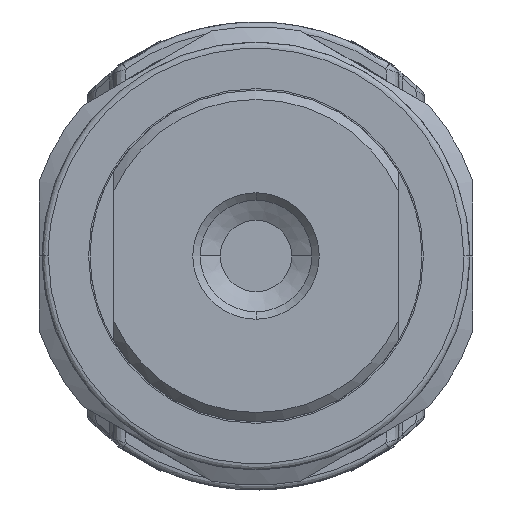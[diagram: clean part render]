
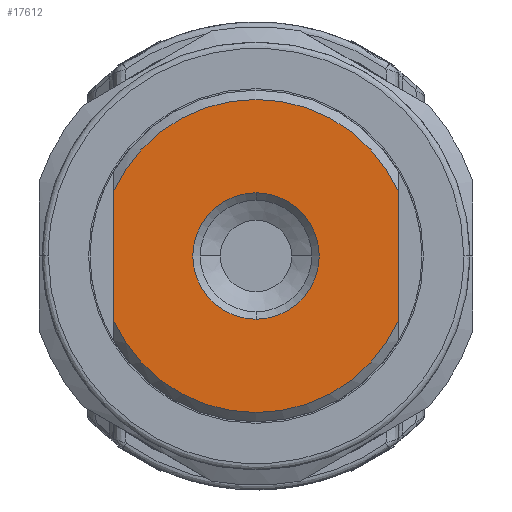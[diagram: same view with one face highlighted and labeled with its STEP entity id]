
A CAD part, front view. The second image highlights one B-rep face of the part: STEP entity #17612.
In plain terms, the highlighted planar face has unit normal (0, -1, 0).
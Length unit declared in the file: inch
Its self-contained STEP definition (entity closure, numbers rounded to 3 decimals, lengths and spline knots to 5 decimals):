
#470 = AXIS2_PLACEMENT_3D ( 'NONE', #39182, #9781, #43005 ) ;
#1462 = DIRECTION ( 'NONE',  ( 0., 1., 0. ) ) ;
#1888 = EDGE_CURVE ( 'NONE', #30042, #32122, #39884, .T. ) ;
#5652 = EDGE_LOOP ( 'NONE', ( #34901, #41704 ) ) ;
#5710 = CARTESIAN_POINT ( 'NONE',  ( 0., -2.41732, -0.40157 ) ) ;
#5877 = CARTESIAN_POINT ( 'NONE',  ( -0.90551, -2.41732, -0.41021 ) ) ;
#6251 = EDGE_LOOP ( 'NONE', ( #34708, #40214, #39175, #31432 ) ) ;
#7426 = FACE_OUTER_BOUND ( 'NONE', #6251, .T. ) ;
#7544 = CARTESIAN_POINT ( 'NONE',  ( -0.90551, -2.41732, 0.41021 ) ) ;
#8238 = FACE_BOUND ( 'NONE', #5652, .T. ) ;
#9524 = DIRECTION ( 'NONE',  ( -1., 0., 0. ) ) ;
#9781 = DIRECTION ( 'NONE',  ( 0., 1., 0. ) ) ;
#9969 = CARTESIAN_POINT ( 'NONE',  ( 0., -2.41732, 0. ) ) ;
#11052 = VECTOR ( 'NONE', #36806, 39.37008 ) ;
#11786 = DIRECTION ( 'NONE',  ( 0., -1., 0. ) ) ;
#13076 = EDGE_CURVE ( 'NONE', #19959, #32122, #41646, .T. ) ;
#14261 = CARTESIAN_POINT ( 'NONE',  ( 0.90551, -2.41732, 0.41021 ) ) ;
#14610 = AXIS2_PLACEMENT_3D ( 'NONE', #9969, #35286, #43187 ) ;
#15089 = CARTESIAN_POINT ( 'NONE',  ( 0.90551, -2.41732, 0.98425 ) ) ;
#15505 = AXIS2_PLACEMENT_3D ( 'NONE', #30075, #1462, #43157 ) ;
#16375 = CARTESIAN_POINT ( 'NONE',  ( -0.90551, -2.41732, 0.98425 ) ) ;
#17020 = CIRCLE ( 'NONE', #470, 0.40157 ) ;
#17612 = ADVANCED_FACE ( 'NONE', ( #8238, #7426 ), #28371, .T. ) ;
#18973 = CIRCLE ( 'NONE', #14610, 0.99409 ) ;
#19024 = EDGE_CURVE ( 'NONE', #41378, #39158, #49466, .T. ) ;
#19959 = VERTEX_POINT ( 'NONE', #7544 ) ;
#20282 = CARTESIAN_POINT ( 'NONE',  ( 0.90551, -2.41732, -0.41021 ) ) ;
#21667 = AXIS2_PLACEMENT_3D ( 'NONE', #49644, #11786, #48828 ) ;
#24523 = EDGE_CURVE ( 'NONE', #30042, #34823, #18973, .T. ) ;
#25030 = CARTESIAN_POINT ( 'NONE',  ( 0., -2.41732, 0.40157 ) ) ;
#28371 = PLANE ( 'NONE',  #21667 ) ;
#29775 = VECTOR ( 'NONE', #30878, 39.37008 ) ;
#30042 = VERTEX_POINT ( 'NONE', #20282 ) ;
#30075 = CARTESIAN_POINT ( 'NONE',  ( 0., -2.41732, 0. ) ) ;
#30204 = DIRECTION ( 'NONE',  ( 0., 1., 0. ) ) ;
#30878 = DIRECTION ( 'NONE',  ( 0., 0., 1. ) ) ;
#31432 = ORIENTED_EDGE ( 'NONE', *, *, #24523, .F. ) ;
#32122 = VERTEX_POINT ( 'NONE', #14261 ) ;
#34708 = ORIENTED_EDGE ( 'NONE', *, *, #1888, .T. ) ;
#34823 = VERTEX_POINT ( 'NONE', #5877 ) ;
#34901 = ORIENTED_EDGE ( 'NONE', *, *, #19024, .T. ) ;
#35286 = DIRECTION ( 'NONE',  ( 0., 1., 0. ) ) ;
#36806 = DIRECTION ( 'NONE',  ( 0., 0., -1. ) ) ;
#38657 = CARTESIAN_POINT ( 'NONE',  ( 0., -2.41732, 0. ) ) ;
#39158 = VERTEX_POINT ( 'NONE', #25030 ) ;
#39175 = ORIENTED_EDGE ( 'NONE', *, *, #46152, .T. ) ;
#39182 = CARTESIAN_POINT ( 'NONE',  ( 0., -2.41732, 0. ) ) ;
#39884 = LINE ( 'NONE', #15089, #29775 ) ;
#40214 = ORIENTED_EDGE ( 'NONE', *, *, #13076, .F. ) ;
#41378 = VERTEX_POINT ( 'NONE', #5710 ) ;
#41646 = CIRCLE ( 'NONE', #46832, 0.99409 ) ;
#41704 = ORIENTED_EDGE ( 'NONE', *, *, #43549, .T. ) ;
#43005 = DIRECTION ( 'NONE',  ( 0., 0., -1. ) ) ;
#43157 = DIRECTION ( 'NONE',  ( 0., 0., -1. ) ) ;
#43187 = DIRECTION ( 'NONE',  ( -1., 0., 0. ) ) ;
#43549 = EDGE_CURVE ( 'NONE', #39158, #41378, #17020, .T. ) ;
#45765 = LINE ( 'NONE', #16375, #11052 ) ;
#46152 = EDGE_CURVE ( 'NONE', #19959, #34823, #45765, .T. ) ;
#46832 = AXIS2_PLACEMENT_3D ( 'NONE', #38657, #30204, #9524 ) ;
#48828 = DIRECTION ( 'NONE',  ( 1., 0., 0. ) ) ;
#49466 = CIRCLE ( 'NONE', #15505, 0.40157 ) ;
#49644 = CARTESIAN_POINT ( 'NONE',  ( 0., -2.41732, 0. ) ) ;
